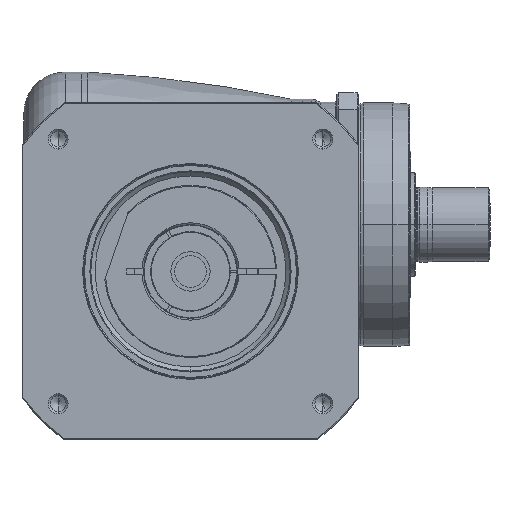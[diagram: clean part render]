
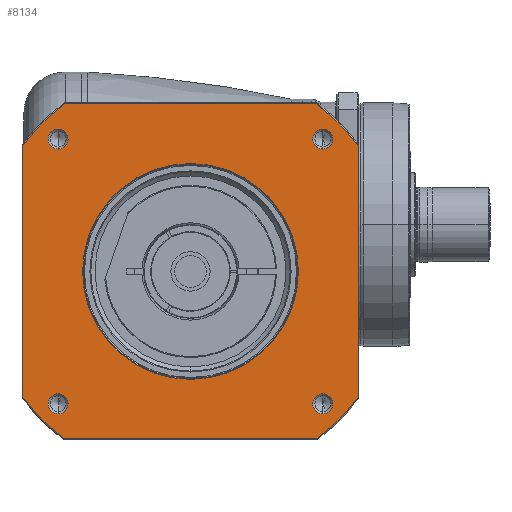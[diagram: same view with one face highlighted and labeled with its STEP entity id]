
A CAD part, front view. The second image highlights one B-rep face of the part: STEP entity #8134.
In plain terms, the highlighted planar face has unit normal (0, -1, 0) as drawn and (0, 0, 1) by its records, which use the part's own axes.
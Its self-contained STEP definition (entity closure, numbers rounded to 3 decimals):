
#6867=DIRECTION('',(1.,0.,0.));
#6868=VECTOR('',#6867,134.666);
#6869=CARTESIAN_POINT('',(-67.333,-89.5,41.));
#6870=LINE('',#6869,#6868);
#6880=CARTESIAN_POINT('',(0.,0.,
41.));
#6881=DIRECTION('',(0.,0.,-1.));
#6882=DIRECTION('',(0.,-1.,0.));
#6883=AXIS2_PLACEMENT_3D('',#6880,#6881,#6882);
#6885=CARTESIAN_POINT('',(0.,0.,
41.));
#6886=DIRECTION('',(0.,0.,-1.));
#6887=DIRECTION('',(0.,1.,0.));
#6888=AXIS2_PLACEMENT_3D('',#6885,#6886,#6887);
#6890=CARTESIAN_POINT('',(0.,0.,41.));
#6891=DIRECTION('',(0.,0.,1.));
#6892=DIRECTION('',(-0.799,-0.601,0.));
#6893=AXIS2_PLACEMENT_3D('',#6890,#6891,#6892);
#6905=DIRECTION('',(0.,-1.,0.));
#6906=VECTOR('',#6905,134.666);
#6907=CARTESIAN_POINT('',(-89.5,67.333,41.));
#6908=LINE('',#6907,#6906);
#6918=CARTESIAN_POINT('',(0.,0.,41.));
#6919=DIRECTION('',(0.,0.,1.));
#6920=DIRECTION('',(-0.601,0.799,0.));
#6921=AXIS2_PLACEMENT_3D('',#6918,#6919,#6920);
#6946=DIRECTION('',(-1.,0.,0.));
#6947=VECTOR('',#6946,134.666);
#6948=CARTESIAN_POINT('',(67.333,89.5,41.));
#6949=LINE('',#6948,#6947);
#6954=CARTESIAN_POINT('',(0.,0.,41.));
#6955=DIRECTION('',(0.,0.,1.));
#6956=DIRECTION('',(0.799,0.601,0.));
#6957=AXIS2_PLACEMENT_3D('',#6954,#6955,#6956);
#6969=DIRECTION('',(0.,1.,0.));
#6970=VECTOR('',#6969,134.666);
#6971=CARTESIAN_POINT('',(89.5,-67.333,41.));
#6972=LINE('',#6971,#6970);
#7074=CARTESIAN_POINT('',(0.,0.,41.));
#7075=DIRECTION('',(0.,0.,1.));
#7076=DIRECTION('',(0.601,-0.799,0.));
#7077=AXIS2_PLACEMENT_3D('',#7074,#7075,#7076);
#7351=CARTESIAN_POINT('',(-70.711,70.711,41.));
#7352=DIRECTION('',(0.,0.,1.));
#7353=DIRECTION('',(-1.,0.,0.));
#7354=AXIS2_PLACEMENT_3D('',#7351,#7352,#7353);
#7369=CARTESIAN_POINT('',(-70.711,70.711,41.));
#7370=DIRECTION('',(0.,0.,1.));
#7371=DIRECTION('',(1.,0.,0.));
#7372=AXIS2_PLACEMENT_3D('',#7369,#7370,#7371);
#7405=CARTESIAN_POINT('',(70.711,70.711,41.));
#7406=DIRECTION('',(0.,0.,1.));
#7407=DIRECTION('',(-1.,0.,0.));
#7408=AXIS2_PLACEMENT_3D('',#7405,#7406,#7407);
#7423=CARTESIAN_POINT('',(70.711,70.711,41.));
#7424=DIRECTION('',(0.,0.,1.));
#7425=DIRECTION('',(1.,0.,0.));
#7426=AXIS2_PLACEMENT_3D('',#7423,#7424,#7425);
#7459=CARTESIAN_POINT('',(70.711,-70.711,41.));
#7460=DIRECTION('',(0.,0.,1.));
#7461=DIRECTION('',(-1.,0.,0.));
#7462=AXIS2_PLACEMENT_3D('',#7459,#7460,#7461);
#7477=CARTESIAN_POINT('',(70.711,-70.711,41.));
#7478=DIRECTION('',(0.,0.,1.));
#7479=DIRECTION('',(1.,0.,0.));
#7480=AXIS2_PLACEMENT_3D('',#7477,#7478,#7479);
#7513=CARTESIAN_POINT('',(-70.711,-70.711,41.));
#7514=DIRECTION('',(0.,0.,1.));
#7515=DIRECTION('',(-1.,0.,0.));
#7516=AXIS2_PLACEMENT_3D('',#7513,#7514,#7515);
#7531=CARTESIAN_POINT('',(-70.711,-70.711,41.));
#7532=DIRECTION('',(0.,0.,1.));
#7533=DIRECTION('',(1.,0.,0.));
#7534=AXIS2_PLACEMENT_3D('',#7531,#7532,#7533);
#7575=CARTESIAN_POINT('',(89.5,-67.333,41.));
#7576=CARTESIAN_POINT('',(89.5,67.333,41.));
#7577=VERTEX_POINT('',#7575);
#7578=VERTEX_POINT('',#7576);
#7583=CARTESIAN_POINT('',(67.333,-89.5,41.));
#7584=VERTEX_POINT('',#7583);
#7587=CARTESIAN_POINT('',(-67.333,-89.5,41.));
#7588=VERTEX_POINT('',#7587);
#7591=CARTESIAN_POINT('',(-89.5,-67.333,41.));
#7592=VERTEX_POINT('',#7591);
#7595=CARTESIAN_POINT('',(-89.5,67.333,41.));
#7596=VERTEX_POINT('',#7595);
#7599=CARTESIAN_POINT('',(-67.333,89.5,41.));
#7600=VERTEX_POINT('',#7599);
#7603=CARTESIAN_POINT('',(67.333,89.5,41.));
#7604=VERTEX_POINT('',#7603);
#7653=CARTESIAN_POINT('',(-76.061,70.711,41.));
#7654=CARTESIAN_POINT('',(-65.361,70.711,41.));
#7655=VERTEX_POINT('',#7653);
#7656=VERTEX_POINT('',#7654);
#7687=CARTESIAN_POINT('',(76.061,70.711,41.));
#7688=CARTESIAN_POINT('',(65.361,70.711,41.));
#7689=VERTEX_POINT('',#7687);
#7690=VERTEX_POINT('',#7688);
#7695=CARTESIAN_POINT('',(76.061,-70.711,41.));
#7696=CARTESIAN_POINT('',(65.361,-70.711,41.));
#7697=VERTEX_POINT('',#7695);
#7698=VERTEX_POINT('',#7696);
#7703=CARTESIAN_POINT('',(-65.361,-70.711,41.));
#7704=CARTESIAN_POINT('',(-76.061,-70.711,41.));
#7705=VERTEX_POINT('',#7703);
#7706=VERTEX_POINT('',#7704);
#7711=CARTESIAN_POINT('',(0.,-57.65,41.));
#7712=CARTESIAN_POINT('',(0.,57.65,41.));
#7713=VERTEX_POINT('',#7711);
#7714=VERTEX_POINT('',#7712);
#8082=CARTESIAN_POINT('',(0.,0.,41.));
#8083=DIRECTION('',(0.,0.,1.));
#8084=DIRECTION('',(1.,0.,0.));
#8085=AXIS2_PLACEMENT_3D('',#8082,#8083,#8084);
#8086=PLANE('',#8085);
#8088=ORIENTED_EDGE('',*,*,#8087,.F.);
#8090=ORIENTED_EDGE('',*,*,#8089,.F.);
#8092=ORIENTED_EDGE('',*,*,#8091,.F.);
#8094=ORIENTED_EDGE('',*,*,#8093,.F.);
#8096=ORIENTED_EDGE('',*,*,#8095,.F.);
#8098=ORIENTED_EDGE('',*,*,#8097,.F.);
#8100=ORIENTED_EDGE('',*,*,#8099,.F.);
#8101=ORIENTED_EDGE('',*,*,#8072,.F.);
#8102=EDGE_LOOP('',(#8088,#8090,#8092,#8094,#8096,#8098,#8100,#8101));
#8103=FACE_OUTER_BOUND('',#8102,.F.);
#8105=ORIENTED_EDGE('',*,*,#8104,.F.);
#8107=ORIENTED_EDGE('',*,*,#8106,.F.);
#8108=EDGE_LOOP('',(#8105,#8107));
#8109=FACE_BOUND('',#8108,.F.);
#8111=ORIENTED_EDGE('',*,*,#8110,.T.);
#8113=ORIENTED_EDGE('',*,*,#8112,.T.);
#8114=EDGE_LOOP('',(#8111,#8113));
#8115=FACE_BOUND('',#8114,.F.);
#8117=ORIENTED_EDGE('',*,*,#8116,.T.);
#8119=ORIENTED_EDGE('',*,*,#8118,.T.);
#8120=EDGE_LOOP('',(#8117,#8119));
#8121=FACE_BOUND('',#8120,.F.);
#8123=ORIENTED_EDGE('',*,*,#8122,.T.);
#8125=ORIENTED_EDGE('',*,*,#8124,.T.);
#8126=EDGE_LOOP('',(#8123,#8125));
#8127=FACE_BOUND('',#8126,.F.);
#8129=ORIENTED_EDGE('',*,*,#8128,.T.);
#8131=ORIENTED_EDGE('',*,*,#8130,.T.);
#8132=EDGE_LOOP('',(#8129,#8131));
#8133=FACE_BOUND('',#8132,.F.);
#8134=ADVANCED_FACE('',(#8103,#8109,#8115,#8121,#8127,#8133),#8086,.T.);
#6884=CIRCLE('',#6883,57.65);
#6889=CIRCLE('',#6888,57.65);
#6894=CIRCLE('',#6893,112.);
#6922=CIRCLE('',#6921,112.);
#6958=CIRCLE('',#6957,112.);
#7078=CIRCLE('',#7077,112.);
#7355=CIRCLE('',#7354,5.35);
#7373=CIRCLE('',#7372,5.35);
#7409=CIRCLE('',#7408,5.35);
#7427=CIRCLE('',#7426,5.35);
#7463=CIRCLE('',#7462,5.35);
#7481=CIRCLE('',#7480,5.35);
#7517=CIRCLE('',#7516,5.35);
#7535=CIRCLE('',#7534,5.35);
#8072=EDGE_CURVE('',#7588,#7584,#6870,.T.);
#8087=EDGE_CURVE('',#7592,#7588,#6894,.T.);
#8089=EDGE_CURVE('',#7596,#7592,#6908,.T.);
#8091=EDGE_CURVE('',#7600,#7596,#6922,.T.);
#8093=EDGE_CURVE('',#7604,#7600,#6949,.T.);
#8095=EDGE_CURVE('',#7578,#7604,#6958,.T.);
#8097=EDGE_CURVE('',#7577,#7578,#6972,.T.);
#8099=EDGE_CURVE('',#7584,#7577,#7078,.T.);
#8104=EDGE_CURVE('',#7713,#7714,#6884,.T.);
#8106=EDGE_CURVE('',#7714,#7713,#6889,.T.);
#8110=EDGE_CURVE('',#7655,#7656,#7355,.T.);
#8112=EDGE_CURVE('',#7656,#7655,#7373,.T.);
#8116=EDGE_CURVE('',#7690,#7689,#7409,.T.);
#8118=EDGE_CURVE('',#7689,#7690,#7427,.T.);
#8122=EDGE_CURVE('',#7698,#7697,#7463,.T.);
#8124=EDGE_CURVE('',#7697,#7698,#7481,.T.);
#8128=EDGE_CURVE('',#7706,#7705,#7517,.T.);
#8130=EDGE_CURVE('',#7705,#7706,#7535,.T.);
